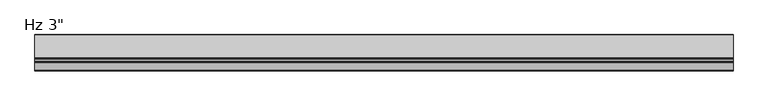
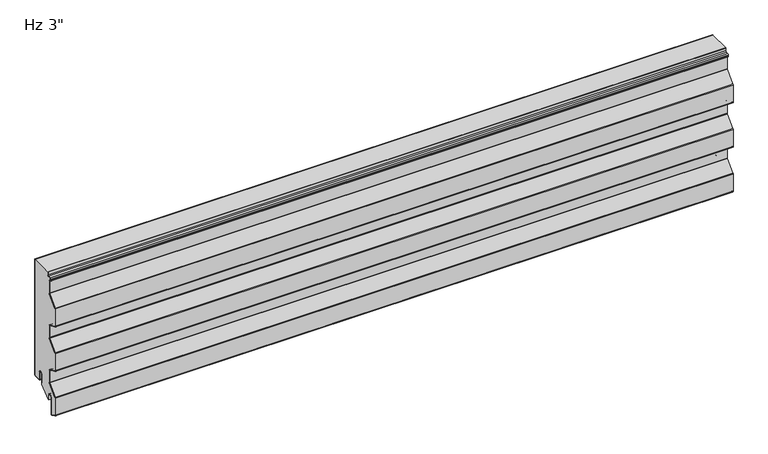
"""IFC4 building model written with IfcOpenShell, lengths in millimetres: plate geometry."""

from ifc_helpers import new_model, si_unit, point, frame, frame_2d, origin, place, context, project, spatial, polyline, circle_curve, trimmed, segment, composite_curve, outline, extrude, source, transform, mapped, element, save


def plate_acb0d70a(model_context):
    return source(origin(), model_context, "Body", "SweptSolid", [
        extrude(outline(composite_curve([segment(polyline([(-26.4011912, 19.05), (-26.4011912, -3.1976612), (-49.233822, -23.01875), (-51.3886912, -23.01875), (-51.3886912, -11.90625)]), True, "CONTINUOUS"), segment(trimmed(circle_curve(frame_2d((-56.3574412, -11.90625)), 4.96875), [point((-51.3886912, -11.90625))], [point((-61.3261912, -11.90625))], True, "CARTESIAN"), True, "CONTINUOUS"), segment(polyline([(-61.3261912, -11.90625), (-61.3261912, -48.8194049)]), True, "CONTINUOUS"), segment(trimmed(circle_curve(frame_2d((-62.7074412, -48.8194049)), 1.38125), [point((-61.3261912, -48.8194049))], [point((-63.2666208, -50.0824052))], False, "CARTESIAN"), True, "CONTINUOUS"), segment(polyline([(-63.2666208, -50.0824052), (-74.3779296, -45.1629946)]), True, "CONTINUOUS"), segment(trimmed(circle_curve(frame_2d((-73.81875, -43.8999943)), 1.38125), [point((-74.3779296, -45.1629946))], [point((-75.2, -43.8999943))], False, "CARTESIAN"), True, "CONTINUOUS"), segment(polyline([(-75.2, -43.8999943), (-75.2, -5.0536946)]), True, "CONTINUOUS"), segment(trimmed(circle_curve(frame_2d((-73.1012, -5.0536946)), 2.0988), [point((-75.2, -5.0536946))], [point((-74.6092077, -3.5939431))], False, "CARTESIAN"), True, "CONTINUOUS"), segment(polyline([(-74.6092077, -3.5939431), (-54.4145567, 17.2682996)]), True, "CONTINUOUS"), segment(trimmed(circle_curve(frame_2d((-56.2737, 19.0679503)), 2.5875), [point((-54.4145567, 17.2682996))], [point((-53.6862, 19.0679503))], True, "CARTESIAN"), True, "CONTINUOUS"), segment(polyline([(-53.6862, 19.0679503), (-53.6862, 45.5917981)]), True, "CONTINUOUS"), segment(trimmed(circle_curve(frame_2d((-56.2737, 45.5917981)), 2.5875), [point((-53.6862, 45.5917981))], [point((-55.2261871, 47.9577806))], True, "CARTESIAN"), True, "CONTINUOUS"), segment(polyline([(-55.2261871, 47.9577806), (-74.3779296, 56.4370054)]), True, "CONTINUOUS"), segment(trimmed(circle_curve(frame_2d((-73.81875, 57.7000057)), 1.38125), [point((-74.3779296, 56.4370054))], [point((-75.2, 57.7000057))], False, "CARTESIAN"), True, "CONTINUOUS"), segment(polyline([(-75.2, 57.7000057), (-75.2, 96.8367131)]), True, "CONTINUOUS"), segment(trimmed(circle_curve(frame_2d((-73.81875, 96.8367131)), 1.38125), [point((-75.2, 96.8367131))], [point((-74.8111912, 97.7973962))], False, "CARTESIAN"), True, "CONTINUOUS"), segment(polyline([(-74.8111912, 97.7973962), (-54.4145567, 118.8682996)]), True, "CONTINUOUS"), segment(trimmed(circle_curve(frame_2d((-56.2737, 120.6679503)), 2.5875), [point((-54.4145567, 118.8682996))], [point((-53.6862, 120.6679503))], True, "CARTESIAN"), True, "CONTINUOUS"), segment(polyline([(-53.6862, 120.6679503), (-53.6862, 147.1917981)]), True, "CONTINUOUS"), segment(trimmed(circle_curve(frame_2d((-56.2737, 147.1917981)), 2.5875), [point((-53.6862, 147.1917981))], [point((-55.2261871, 149.5577806))], True, "CARTESIAN"), True, "CONTINUOUS"), segment(polyline([(-55.2261871, 149.5577806), (-74.3779296, 158.0370054)]), True, "CONTINUOUS"), segment(trimmed(circle_curve(frame_2d((-73.81875, 159.3000057)), 1.38125), [point((-74.3779296, 158.0370054))], [point((-75.2, 159.3000057))], False, "CARTESIAN"), True, "CONTINUOUS"), segment(polyline([(-75.2, 159.3000057), (-75.2, 198.4367131)]), True, "CONTINUOUS"), segment(trimmed(circle_curve(frame_2d((-73.81875, 198.4367131)), 1.38125), [point((-75.2, 198.4367131))], [point((-74.8111912, 199.3973962))], False, "CARTESIAN"), True, "CONTINUOUS"), segment(polyline([(-74.8111912, 199.3973962), (-54.4145567, 220.4682996)]), True, "CONTINUOUS"), segment(trimmed(circle_curve(frame_2d((-56.2737, 222.2679503)), 2.5875), [point((-54.4145567, 220.4682996))], [point((-53.6862, 222.2679503))], True, "CARTESIAN"), True, "CONTINUOUS"), segment(polyline([(-53.6862, 222.2679503), (-53.6862, 248.7917981)]), True, "CONTINUOUS"), segment(trimmed(circle_curve(frame_2d((-56.2737, 248.7917981)), 2.5875), [point((-53.6862, 248.7917981))], [point((-55.2261871, 251.1577806))], True, "CARTESIAN"), True, "CONTINUOUS"), segment(polyline([(-55.2261871, 251.1577806), (-56.9166208, 251.9062016)]), True, "CONTINUOUS"), segment(trimmed(circle_curve(frame_2d((-56.3574412, 253.1692019)), 1.38125), [point((-56.9166208, 251.9062016))], [point((-57.7386912, 253.1692019))], False, "CARTESIAN"), True, "CONTINUOUS"), segment(polyline([(-57.7386912, 253.1692019), (-57.7386912, 255.4967085)]), True, "CONTINUOUS"), segment(trimmed(circle_curve(frame_2d((-56.3574412, 255.4967085)), 1.38125), [point((-57.7386912, 255.4967085))], [point((-56.4297302, 256.8760655))], False, "CARTESIAN"), True, "CONTINUOUS"), segment(polyline([(-56.4297302, 256.8760655), (-50.6657719, 257.1781418)]), True, "CONTINUOUS"), segment(trimmed(circle_curve(frame_2d((-50.8011912, 259.7620957)), 2.5875), [point((-50.6657719, 257.1781418))], [point((-48.2136912, 259.7620957))], True, "CARTESIAN"), True, "CONTINUOUS"), segment(polyline([(-48.2136912, 259.7620957), (-48.2136912, 266.4), (-1.0011912, 266.4), (-1.0011912, 3.175)]), True, "CONTINUOUS"), segment(trimmed(circle_curve(frame_2d((-2.3824412, 3.175)), 1.38125), [point((-1.0011912, 3.175))], [point((-2.3824412, 1.79375))], False, "CARTESIAN"), True, "CONTINUOUS"), segment(polyline([(-2.3824412, 1.79375), (-15.0824412, 1.79375)]), True, "CONTINUOUS"), segment(trimmed(circle_curve(frame_2d((-15.0824412, 3.175)), 1.38125), [point((-15.0824412, 1.79375))], [point((-16.4636912, 3.175))], False, "CARTESIAN"), True, "CONTINUOUS"), segment(polyline([(-16.4636912, 3.175), (-16.4636912, 19.05)]), True, "CONTINUOUS"), segment(trimmed(circle_curve(frame_2d((-21.4324412, 19.05)), 4.96875), [point((-16.4636912, 19.05))], [point((-26.4011912, 19.05))], True, "CARTESIAN"), True, "CONTINUOUS")], self_intersect=False)), frame((-730.0, 0.0, 0.0), z_axis=(1.0, 0.0, 0.0), x_axis=(0.0, 1.0, 0.0)), (0.0, 0.0, 1.0), 1460.0),
        extrude(outline(composite_curve([segment(polyline([(-25.4, 0.79375), (-26.4, 0.79375), (-26.4, 19.05)]), True, "CONTINUOUS"), segment(trimmed(circle_curve(frame_2d((-21.43125, 19.05)), 4.96875), [point((-26.4, 19.05))], [point((-16.4625, 19.05))], False, "CARTESIAN"), True, "CONTINUOUS"), segment(polyline([(-16.4625, 19.05), (-16.4625, 3.175)]), True, "CONTINUOUS"), segment(trimmed(circle_curve(frame_2d((-15.08125, 3.175)), 1.38125), [point((-16.4625, 3.175))], [point((-15.08125, 1.79375))], True, "CARTESIAN"), True, "CONTINUOUS"), segment(polyline([(-15.08125, 1.79375), (-2.38125, 1.79375)]), True, "CONTINUOUS"), segment(trimmed(circle_curve(frame_2d((-2.38125, 3.175)), 1.38125), [point((-2.38125, 1.79375))], [point((-1.0, 3.175))], True, "CARTESIAN"), True, "CONTINUOUS"), segment(polyline([(-1.0, 3.175), (-1.0, 266.4), (0.0, 266.4), (0.0, 3.175)]), True, "CONTINUOUS"), segment(trimmed(circle_curve(frame_2d((-2.38125, 3.175)), 2.38125), [point((0.0, 3.175))], [point((-2.38125, 0.79375))], False, "CARTESIAN"), True, "CONTINUOUS"), segment(polyline([(-2.38125, 0.79375), (-15.08125, 0.79375)]), True, "CONTINUOUS"), segment(trimmed(circle_curve(frame_2d((-15.08125, 3.175)), 2.38125), [point((-15.08125, 0.79375))], [point((-17.4625, 3.175))], False, "CARTESIAN"), True, "CONTINUOUS"), segment(polyline([(-17.4625, 3.175), (-17.4625, 19.05)]), True, "CONTINUOUS"), segment(trimmed(circle_curve(frame_2d((-21.43125, 19.05)), 3.96875), [point((-17.4625, 19.05))], [point((-25.4, 19.05))], True, "CARTESIAN"), True, "CONTINUOUS"), segment(polyline([(-25.4, 19.05), (-25.4, 0.79375)]), True, "CONTINUOUS")], self_intersect=False)), frame((-730.0, 0.0, 0.0), z_axis=(1.0, 0.0, 0.0), x_axis=(0.0, 1.0, 0.0)), (0.0, 0.0, 1.0), 1460.0),
        extrude(outline(composite_curve([segment(polyline([(-60.3261912, -11.90625), (-60.3261912, -48.8194049)]), True, "CONTINUOUS"), segment(trimmed(circle_curve(frame_2d((-62.7074412, -48.8194049)), 2.38125), [point((-60.3261912, -48.8194049))], [point((-63.6714567, -50.9967946))], False, "CARTESIAN"), True, "CONTINUOUS"), segment(polyline([(-63.6714567, -50.9967946), (-74.7827655, -46.0773839)]), True, "CONTINUOUS"), segment(trimmed(circle_curve(frame_2d((-73.81875, -43.8999943)), 2.38125), [point((-74.7827655, -46.0773839))], [point((-76.2, -43.8999943))], False, "CARTESIAN"), True, "CONTINUOUS"), segment(polyline([(-76.2, -43.8999943), (-76.2, -5.0536946)]), True, "CONTINUOUS"), segment(trimmed(circle_curve(frame_2d((-73.1012, -5.0536946)), 3.0988), [point((-76.2, -5.0536946))], [point((-75.3277172, -2.8984259))], False, "CARTESIAN"), True, "CONTINUOUS"), segment(polyline([(-75.3277172, -2.8984259), (-55.1330662, 17.9638168)]), True, "CONTINUOUS"), segment(trimmed(circle_curve(frame_2d((-56.2737, 19.0679503)), 1.5875), [point((-55.1330662, 17.9638168))], [point((-54.6862, 19.0679503))], True, "CARTESIAN"), True, "CONTINUOUS"), segment(polyline([(-54.6862, 19.0679503), (-54.6862, 45.5917981)]), True, "CONTINUOUS"), segment(trimmed(circle_curve(frame_2d((-56.2737, 45.5917981)), 1.5875), [point((-54.6862, 45.5917981))], [point((-55.631023, 47.0433912))], True, "CARTESIAN"), True, "CONTINUOUS"), segment(polyline([(-55.631023, 47.0433912), (-74.7827655, 55.5226161)]), True, "CONTINUOUS"), segment(trimmed(circle_curve(frame_2d((-73.81875, 57.7000057)), 2.38125), [point((-74.7827655, 55.5226161))], [point((-76.2, 57.7000057))], False, "CARTESIAN"), True, "CONTINUOUS"), segment(polyline([(-76.2, 57.7000057), (-76.2, 96.8367131)]), True, "CONTINUOUS"), segment(trimmed(circle_curve(frame_2d((-73.81875, 96.8367131)), 2.38125), [point((-76.2, 96.8367131))], [point((-75.5297007, 98.4929134))], False, "CARTESIAN"), True, "CONTINUOUS"), segment(polyline([(-75.5297007, 98.4929134), (-55.1330662, 119.5638168)]), True, "CONTINUOUS"), segment(trimmed(circle_curve(frame_2d((-56.2737, 120.6679503)), 1.5875), [point((-55.1330662, 119.5638168))], [point((-54.6862, 120.6679503))], True, "CARTESIAN"), True, "CONTINUOUS"), segment(polyline([(-54.6862, 120.6679503), (-54.6862, 147.1917981)]), True, "CONTINUOUS"), segment(trimmed(circle_curve(frame_2d((-56.2737, 147.1917981)), 1.5875), [point((-54.6862, 147.1917981))], [point((-55.631023, 148.6433912))], True, "CARTESIAN"), True, "CONTINUOUS"), segment(polyline([(-55.631023, 148.6433912), (-74.7827655, 157.1226161)]), True, "CONTINUOUS"), segment(trimmed(circle_curve(frame_2d((-73.81875, 159.3000057)), 2.38125), [point((-74.7827655, 157.1226161))], [point((-76.2, 159.3000057))], False, "CARTESIAN"), True, "CONTINUOUS"), segment(polyline([(-76.2, 159.3000057), (-76.2, 198.4367131)]), True, "CONTINUOUS"), segment(trimmed(circle_curve(frame_2d((-73.81875, 198.4367131)), 2.38125), [point((-76.2, 198.4367131))], [point((-75.5297007, 200.0929134))], False, "CARTESIAN"), True, "CONTINUOUS"), segment(polyline([(-75.5297007, 200.0929134), (-55.1330662, 221.1638168)]), True, "CONTINUOUS"), segment(trimmed(circle_curve(frame_2d((-56.2737, 222.2679503)), 1.5875), [point((-55.1330662, 221.1638168))], [point((-54.6862, 222.2679503))], True, "CARTESIAN"), True, "CONTINUOUS"), segment(polyline([(-54.6862, 222.2679503), (-54.6862, 248.7917981)]), True, "CONTINUOUS"), segment(trimmed(circle_curve(frame_2d((-56.2737, 248.7917981)), 1.5875), [point((-54.6862, 248.7917981))], [point((-55.631023, 250.2433912))], True, "CARTESIAN"), True, "CONTINUOUS"), segment(polyline([(-55.631023, 250.2433912), (-57.3214567, 250.9918123)]), True, "CONTINUOUS"), segment(trimmed(circle_curve(frame_2d((-56.3574412, 253.1692019)), 2.38125), [point((-57.3214567, 250.9918123))], [point((-58.7386912, 253.1692019))], False, "CARTESIAN"), True, "CONTINUOUS"), segment(polyline([(-58.7386912, 253.1692019), (-58.7386912, 255.4967085)]), True, "CONTINUOUS"), segment(trimmed(circle_curve(frame_2d((-56.3574412, 255.4967085)), 2.38125), [point((-58.7386912, 255.4967085))], [point((-56.4820662, 257.8746951))], False, "CARTESIAN"), True, "CONTINUOUS"), segment(polyline([(-56.4820662, 257.8746951), (-50.7181078, 258.1767713)]), True, "CONTINUOUS"), segment(trimmed(circle_curve(frame_2d((-50.8011912, 259.7620957)), 1.5875), [point((-50.7181078, 258.1767713))], [point((-49.2136912, 259.7620957))], True, "CARTESIAN"), True, "CONTINUOUS"), segment(polyline([(-49.2136912, 259.7620957), (-49.2136912, 266.4), (-48.2136912, 266.4), (-48.2136912, 259.7620957)]), True, "CONTINUOUS"), segment(trimmed(circle_curve(frame_2d((-50.8011912, 259.7620957)), 2.5875), [point((-48.2136912, 259.7620957))], [point((-50.6657719, 257.1781418))], False, "CARTESIAN"), True, "CONTINUOUS"), segment(polyline([(-50.6657719, 257.1781418), (-56.4297302, 256.8760655)]), True, "CONTINUOUS"), segment(trimmed(circle_curve(frame_2d((-56.3574412, 255.4967085)), 1.38125), [point((-56.4297302, 256.8760655))], [point((-57.7386912, 255.4967085))], True, "CARTESIAN"), True, "CONTINUOUS"), segment(polyline([(-57.7386912, 255.4967085), (-57.7386912, 253.1692019)]), True, "CONTINUOUS"), segment(trimmed(circle_curve(frame_2d((-56.3574412, 253.1692019)), 1.38125), [point((-57.7386912, 253.1692019))], [point((-56.9166208, 251.9062016))], True, "CARTESIAN"), True, "CONTINUOUS"), segment(polyline([(-56.9166208, 251.9062016), (-55.2261871, 251.1577806)]), True, "CONTINUOUS"), segment(trimmed(circle_curve(frame_2d((-56.2737, 248.7917981)), 2.5875), [point((-55.2261871, 251.1577806))], [point((-53.6862, 248.7917981))], False, "CARTESIAN"), True, "CONTINUOUS"), segment(polyline([(-53.6862, 248.7917981), (-53.6862, 222.2679503)]), True, "CONTINUOUS"), segment(trimmed(circle_curve(frame_2d((-56.2737, 222.2679503)), 2.5875), [point((-53.6862, 222.2679503))], [point((-54.4145567, 220.4682996))], False, "CARTESIAN"), True, "CONTINUOUS"), segment(polyline([(-54.4145567, 220.4682996), (-74.8111912, 199.3973962)]), True, "CONTINUOUS"), segment(trimmed(circle_curve(frame_2d((-73.81875, 198.4367131)), 1.38125), [point((-74.8111912, 199.3973962))], [point((-75.2, 198.4367131))], True, "CARTESIAN"), True, "CONTINUOUS"), segment(polyline([(-75.2, 198.4367131), (-75.2, 159.3000057)]), True, "CONTINUOUS"), segment(trimmed(circle_curve(frame_2d((-73.81875, 159.3000057)), 1.38125), [point((-75.2, 159.3000057))], [point((-74.3779296, 158.0370054))], True, "CARTESIAN"), True, "CONTINUOUS"), segment(polyline([(-74.3779296, 158.0370054), (-55.2261871, 149.5577806)]), True, "CONTINUOUS"), segment(trimmed(circle_curve(frame_2d((-56.2737, 147.1917981)), 2.5875), [point((-55.2261871, 149.5577806))], [point((-53.6862, 147.1917981))], False, "CARTESIAN"), True, "CONTINUOUS"), segment(polyline([(-53.6862, 147.1917981), (-53.6862, 120.6679503)]), True, "CONTINUOUS"), segment(trimmed(circle_curve(frame_2d((-56.2737, 120.6679503)), 2.5875), [point((-53.6862, 120.6679503))], [point((-54.4145567, 118.8682996))], False, "CARTESIAN"), True, "CONTINUOUS"), segment(polyline([(-54.4145567, 118.8682996), (-74.8111912, 97.7973962)]), True, "CONTINUOUS"), segment(trimmed(circle_curve(frame_2d((-73.81875, 96.8367131)), 1.38125), [point((-74.8111912, 97.7973962))], [point((-75.2, 96.8367131))], True, "CARTESIAN"), True, "CONTINUOUS"), segment(polyline([(-75.2, 96.8367131), (-75.2, 57.7000057)]), True, "CONTINUOUS"), segment(trimmed(circle_curve(frame_2d((-73.81875, 57.7000057)), 1.38125), [point((-75.2, 57.7000057))], [point((-74.3779296, 56.4370054))], True, "CARTESIAN"), True, "CONTINUOUS"), segment(polyline([(-74.3779296, 56.4370054), (-55.2261871, 47.9577806)]), True, "CONTINUOUS"), segment(trimmed(circle_curve(frame_2d((-56.2737, 45.5917981)), 2.5875), [point((-55.2261871, 47.9577806))], [point((-53.6862, 45.5917981))], False, "CARTESIAN"), True, "CONTINUOUS"), segment(polyline([(-53.6862, 45.5917981), (-53.6862, 19.0679503)]), True, "CONTINUOUS"), segment(trimmed(circle_curve(frame_2d((-56.2737, 19.0679503)), 2.5875), [point((-53.6862, 19.0679503))], [point((-54.4145567, 17.2682996))], False, "CARTESIAN"), True, "CONTINUOUS"), segment(polyline([(-54.4145567, 17.2682996), (-74.6092077, -3.5939431)]), True, "CONTINUOUS"), segment(trimmed(circle_curve(frame_2d((-73.1012, -5.0536946)), 2.0988), [point((-74.6092077, -3.5939431))], [point((-75.2, -5.0536946))], True, "CARTESIAN"), True, "CONTINUOUS"), segment(polyline([(-75.2, -5.0536946), (-75.2, -43.8999943)]), True, "CONTINUOUS"), segment(trimmed(circle_curve(frame_2d((-73.81875, -43.8999943)), 1.38125), [point((-75.2, -43.8999943))], [point((-74.3779296, -45.1629946))], True, "CARTESIAN"), True, "CONTINUOUS"), segment(polyline([(-74.3779296, -45.1629946), (-63.2666208, -50.0824052)]), True, "CONTINUOUS"), segment(trimmed(circle_curve(frame_2d((-62.7074412, -48.8194049)), 1.38125), [point((-63.2666208, -50.0824052))], [point((-61.3261912, -48.8194049))], True, "CARTESIAN"), True, "CONTINUOUS"), segment(polyline([(-61.3261912, -48.8194049), (-61.3261912, -11.90625)]), True, "CONTINUOUS"), segment(trimmed(circle_curve(frame_2d((-56.3574412, -11.90625)), 4.96875), [point((-61.3261912, -11.90625))], [point((-51.3886912, -11.90625))], False, "CARTESIAN"), True, "CONTINUOUS"), segment(polyline([(-51.3886912, -11.90625), (-51.3886912, -23.01875), (-52.3886912, -23.01875), (-52.3886912, -11.90625)]), True, "CONTINUOUS"), segment(trimmed(circle_curve(frame_2d((-56.3574412, -11.90625)), 3.96875), [point((-52.3886912, -11.90625))], [point((-60.3261912, -11.90625))], True, "CARTESIAN"), True, "CONTINUOUS")], self_intersect=False)), frame((-730.0, 0.0, 0.0), z_axis=(1.0, 0.0, 0.0), x_axis=(0.0, 1.0, 0.0)), (0.0, 0.0, 1.0), 1460.0),
    ])


if __name__ == "__main__":
    model = new_model("IFC4")
    model_context = context("Model", 3, world=origin())
    ifc_project = project(units=[si_unit("LENGTHUNIT", "METRE", prefix="MILLI")], contexts=[model_context])
    site = spatial("IfcSite", under=ifc_project)
    building = spatial("IfcBuilding", under=site)
    placement = place(None, origin())
    plate_shape = plate_acb0d70a(model_context)
    element("IfcPlate", 1, ObjectType="KIP-12-DWR-R19-CP-Hz-S : Hz 3\"", at=placement, inside=building, context=model_context, shape_type="MappedRepresentation", body=[
        mapped(plate_shape, transform((0.0, 0.0, 0.0), x_axis=(1.0, 0.0, 0.0), y_axis=(0.0, 1.0, 0.0), z_axis=(0.0, 0.0, 1.0))),
    ])
    save(model, "model.ifc")
